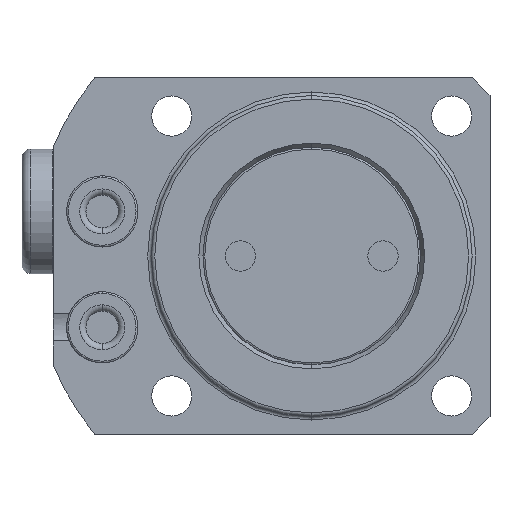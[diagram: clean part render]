
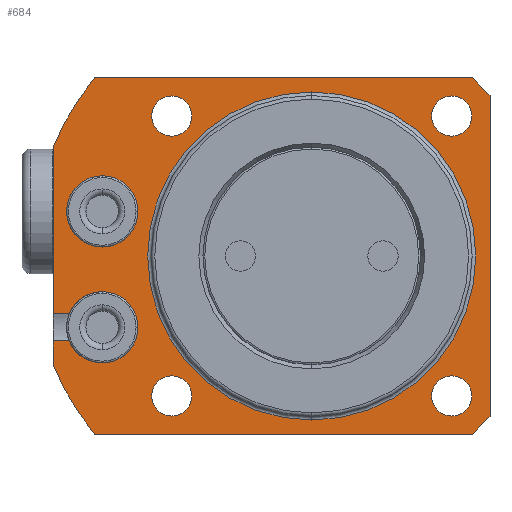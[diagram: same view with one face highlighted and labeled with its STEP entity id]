
A CAD part, front view. The second image highlights one B-rep face of the part: STEP entity #684.
In plain terms, the highlighted planar face has unit normal (0, -1, 0).
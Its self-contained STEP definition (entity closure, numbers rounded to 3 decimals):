
#330=PLANE('',#4627);
#401=FACE_BOUND('',#1279,.T.);
#402=FACE_BOUND('',#1280,.T.);
#403=FACE_BOUND('',#1281,.T.);
#404=FACE_BOUND('',#1282,.T.);
#405=FACE_BOUND('',#1283,.T.);
#406=FACE_BOUND('',#1284,.T.);
#407=FACE_BOUND('',#1285,.T.);
#684=ADVANCED_FACE('',(#401,#402,#403,#404,#405,#406,#407),#330,.T.);
#1279=EDGE_LOOP('',(#2443,#2444,#2445,#2446,#2447,#2448,#2449,#2450,#2451,
#2452,#2453,#2454,#2455,#2456));
#1280=EDGE_LOOP('',(#2457,#2458));
#1281=EDGE_LOOP('',(#2459,#2460));
#1282=EDGE_LOOP('',(#2461,#2462));
#1283=EDGE_LOOP('',(#2463,#2464));
#1284=EDGE_LOOP('',(#2465,#2466));
#1285=EDGE_LOOP('',(#2467,#2468));
#1619=LINE('',#7681,#1811);
#1620=LINE('',#7684,#1812);
#1621=LINE('',#7686,#1813);
#1622=LINE('',#7690,#1814);
#1623=LINE('',#7692,#1815);
#1624=LINE('',#7694,#1816);
#1625=LINE('',#7696,#1817);
#1626=LINE('',#7698,#1818);
#1627=LINE('',#7702,#1819);
#1811=VECTOR('',#5639,1.);
#1812=VECTOR('',#5642,1.);
#1813=VECTOR('',#5643,1.);
#1814=VECTOR('',#5646,1.);
#1815=VECTOR('',#5647,1.);
#1816=VECTOR('',#5648,1.);
#1817=VECTOR('',#5649,1.);
#1818=VECTOR('',#5650,1.);
#1819=VECTOR('',#5653,1.);
#2443=ORIENTED_EDGE('',*,*,#3743,.F.);
#2444=ORIENTED_EDGE('',*,*,#3622,.F.);
#2445=ORIENTED_EDGE('',*,*,#3744,.F.);
#2446=ORIENTED_EDGE('',*,*,#3624,.F.);
#2447=ORIENTED_EDGE('',*,*,#3745,.F.);
#2448=ORIENTED_EDGE('',*,*,#3746,.T.);
#2449=ORIENTED_EDGE('',*,*,#3747,.T.);
#2450=ORIENTED_EDGE('',*,*,#3748,.T.);
#2451=ORIENTED_EDGE('',*,*,#3749,.T.);
#2452=ORIENTED_EDGE('',*,*,#3750,.T.);
#2453=ORIENTED_EDGE('',*,*,#3751,.T.);
#2454=ORIENTED_EDGE('',*,*,#3752,.T.);
#2455=ORIENTED_EDGE('',*,*,#3753,.T.);
#2456=ORIENTED_EDGE('',*,*,#3754,.T.);
#2457=ORIENTED_EDGE('',*,*,#3755,.F.);
#2458=ORIENTED_EDGE('',*,*,#3618,.F.);
#2459=ORIENTED_EDGE('',*,*,#3646,.F.);
#2460=ORIENTED_EDGE('',*,*,#3756,.F.);
#2461=ORIENTED_EDGE('',*,*,#3654,.F.);
#2462=ORIENTED_EDGE('',*,*,#3757,.F.);
#2463=ORIENTED_EDGE('',*,*,#3662,.F.);
#2464=ORIENTED_EDGE('',*,*,#3758,.F.);
#2465=ORIENTED_EDGE('',*,*,#3670,.F.);
#2466=ORIENTED_EDGE('',*,*,#3759,.F.);
#2467=ORIENTED_EDGE('',*,*,#3760,.F.);
#2468=ORIENTED_EDGE('',*,*,#3720,.F.);
#3182=VERTEX_POINT('',#7128);
#3183=VERTEX_POINT('',#7130);
#3186=VERTEX_POINT('',#7137);
#3187=VERTEX_POINT('',#7139);
#3188=VERTEX_POINT('',#7144);
#3189=VERTEX_POINT('',#7146);
#3208=VERTEX_POINT('',#7284);
#3209=VERTEX_POINT('',#7285);
#3216=VERTEX_POINT('',#7332);
#3217=VERTEX_POINT('',#7333);
#3224=VERTEX_POINT('',#7380);
#3225=VERTEX_POINT('',#7381);
#3232=VERTEX_POINT('',#7428);
#3233=VERTEX_POINT('',#7429);
#3272=VERTEX_POINT('',#7560);
#3273=VERTEX_POINT('',#7562);
#3288=VERTEX_POINT('',#7682);
#3289=VERTEX_POINT('',#7685);
#3290=VERTEX_POINT('',#7687);
#3291=VERTEX_POINT('',#7689);
#3292=VERTEX_POINT('',#7691);
#3293=VERTEX_POINT('',#7693);
#3294=VERTEX_POINT('',#7695);
#3295=VERTEX_POINT('',#7697);
#3296=VERTEX_POINT('',#7699);
#3297=VERTEX_POINT('',#7701);
#3618=EDGE_CURVE('',#3182,#3183,#4107,.T.);
#3622=EDGE_CURVE('',#3186,#3187,#4109,.T.);
#3624=EDGE_CURVE('',#3188,#3189,#4110,.T.);
#3646=EDGE_CURVE('',#3208,#3209,#4116,.T.);
#3654=EDGE_CURVE('',#3216,#3217,#4119,.T.);
#3662=EDGE_CURVE('',#3224,#3225,#4122,.T.);
#3670=EDGE_CURVE('',#3232,#3233,#4125,.T.);
#3720=EDGE_CURVE('',#3272,#3273,#4156,.T.);
#3743=EDGE_CURVE('',#3187,#3288,#1619,.T.);
#3744=EDGE_CURVE('',#3189,#3186,#4166,.T.);
#3745=EDGE_CURVE('',#3289,#3188,#1620,.T.);
#3746=EDGE_CURVE('',#3289,#3290,#1621,.T.);
#3747=EDGE_CURVE('',#3290,#3291,#4167,.T.);
#3748=EDGE_CURVE('',#3291,#3292,#1622,.T.);
#3749=EDGE_CURVE('',#3292,#3293,#1623,.T.);
#3750=EDGE_CURVE('',#3293,#3294,#1624,.T.);
#3751=EDGE_CURVE('',#3294,#3295,#1625,.T.);
#3752=EDGE_CURVE('',#3295,#3296,#1626,.T.);
#3753=EDGE_CURVE('',#3296,#3297,#4168,.T.);
#3754=EDGE_CURVE('',#3297,#3288,#1627,.T.);
#3755=EDGE_CURVE('',#3183,#3182,#4169,.T.);
#3756=EDGE_CURVE('',#3209,#3208,#4170,.T.);
#3757=EDGE_CURVE('',#3217,#3216,#4171,.T.);
#3758=EDGE_CURVE('',#3225,#3224,#4172,.T.);
#3759=EDGE_CURVE('',#3233,#3232,#4173,.T.);
#3760=EDGE_CURVE('',#3273,#3272,#4174,.T.);
#4107=CIRCLE('',#4527,4.);
#4109=CIRCLE('',#4530,4.);
#4110=CIRCLE('',#4531,4.);
#4116=CIRCLE('',#4544,2.25);
#4119=CIRCLE('',#4549,2.25);
#4122=CIRCLE('',#4554,2.25);
#4125=CIRCLE('',#4559,2.25);
#4156=CIRCLE('',#4603,18.4);
#4166=CIRCLE('',#4618,4.);
#4167=CIRCLE('',#4619,31.5);
#4168=CIRCLE('',#4620,31.5);
#4169=CIRCLE('',#4621,4.);
#4170=CIRCLE('',#4622,2.25);
#4171=CIRCLE('',#4623,2.25);
#4172=CIRCLE('',#4624,2.25);
#4173=CIRCLE('',#4625,2.25);
#4174=CIRCLE('',#4626,18.4);
#4527=AXIS2_PLACEMENT_3D('',#7129,#5406,#5407);
#4530=AXIS2_PLACEMENT_3D('',#7138,#5414,#5415);
#4531=AXIS2_PLACEMENT_3D('',#7145,#5416,#5417);
#4544=AXIS2_PLACEMENT_3D('',#7283,#5455,#5456);
#4549=AXIS2_PLACEMENT_3D('',#7331,#5469,#5470);
#4554=AXIS2_PLACEMENT_3D('',#7379,#5483,#5484);
#4559=AXIS2_PLACEMENT_3D('',#7427,#5497,#5498);
#4603=AXIS2_PLACEMENT_3D('',#7561,#5603,#5604);
#4618=AXIS2_PLACEMENT_3D('',#7683,#5640,#5641);
#4619=AXIS2_PLACEMENT_3D('',#7688,#5644,#5645);
#4620=AXIS2_PLACEMENT_3D('',#7700,#5651,#5652);
#4621=AXIS2_PLACEMENT_3D('',#7703,#5654,#5655);
#4622=AXIS2_PLACEMENT_3D('',#7704,#5656,#5657);
#4623=AXIS2_PLACEMENT_3D('',#7705,#5658,#5659);
#4624=AXIS2_PLACEMENT_3D('',#7706,#5660,#5661);
#4625=AXIS2_PLACEMENT_3D('',#7707,#5662,#5663);
#4626=AXIS2_PLACEMENT_3D('',#7708,#5664,#5665);
#4627=AXIS2_PLACEMENT_3D('',#7709,#5666,#5667);
#5406=DIRECTION('',(0.,-1.,0.));
#5407=DIRECTION('',(0.,0.,-1.));
#5414=DIRECTION('',(0.,-1.,0.));
#5415=DIRECTION('',(0.,0.,-1.));
#5416=DIRECTION('',(0.,-1.,0.));
#5417=DIRECTION('',(0.,0.,-1.));
#5455=DIRECTION('',(0.,-1.,0.));
#5456=DIRECTION('',(0.,0.,-1.));
#5469=DIRECTION('',(0.,-1.,0.));
#5470=DIRECTION('',(0.,0.,-1.));
#5483=DIRECTION('',(0.,-1.,0.));
#5484=DIRECTION('',(0.,0.,-1.));
#5497=DIRECTION('',(0.,-1.,0.));
#5498=DIRECTION('',(0.,0.,-1.));
#5603=DIRECTION('',(0.,-1.,0.));
#5604=DIRECTION('',(0.,0.,-1.));
#5639=DIRECTION('',(-1.,0.,0.));
#5640=DIRECTION('',(0.,-1.,0.));
#5641=DIRECTION('',(0.,0.,-1.));
#5642=DIRECTION('',(1.,0.,0.));
#5643=DIRECTION('',(0.,0.,-1.));
#5644=DIRECTION('',(0.,-1.,0.));
#5645=DIRECTION('',(0.,0.,-1.));
#5646=DIRECTION('',(1.,0.,0.));
#5647=DIRECTION('',(0.707,0.,0.707));
#5648=DIRECTION('',(0.,0.,1.));
#5649=DIRECTION('',(-0.707,0.,0.707));
#5650=DIRECTION('',(-1.,0.,0.));
#5651=DIRECTION('',(0.,-1.,0.));
#5652=DIRECTION('',(0.,0.,-1.));
#5653=DIRECTION('',(0.,0.,-1.));
#5654=DIRECTION('',(0.,-1.,0.));
#5655=DIRECTION('',(0.,0.,-1.));
#5656=DIRECTION('',(0.,-1.,0.));
#5657=DIRECTION('',(0.,0.,-1.));
#5658=DIRECTION('',(0.,-1.,0.));
#5659=DIRECTION('',(0.,0.,-1.));
#5660=DIRECTION('',(0.,-1.,0.));
#5661=DIRECTION('',(0.,0.,-1.));
#5662=DIRECTION('',(0.,-1.,0.));
#5663=DIRECTION('',(0.,0.,-1.));
#5664=DIRECTION('',(0.,-1.,0.));
#5665=DIRECTION('',(0.,0.,-1.));
#5666=DIRECTION('',(0.,-1.,0.));
#5667=DIRECTION('',(0.,0.,1.));
#7128=CARTESIAN_POINT('',(-23.5,27.628,9.));
#7129=CARTESIAN_POINT('',(-23.5,27.628,5.));
#7130=CARTESIAN_POINT('',(-23.5,27.628,1.));
#7137=CARTESIAN_POINT('',(-23.5,27.628,-4.));
#7138=CARTESIAN_POINT('',(-23.5,27.628,-8.));
#7139=CARTESIAN_POINT('',(-27.2,27.628,-6.48));
#7144=CARTESIAN_POINT('',(-27.2,27.628,-9.52));
#7145=CARTESIAN_POINT('',(-23.5,27.628,-8.));
#7146=CARTESIAN_POINT('',(-23.5,27.628,-12.));
#7283=CARTESIAN_POINT('',(-15.7,27.628,-15.7));
#7284=CARTESIAN_POINT('',(-15.7,27.628,-13.45));
#7285=CARTESIAN_POINT('',(-15.7,27.628,-17.95));
#7331=CARTESIAN_POINT('',(-15.7,27.628,15.7));
#7332=CARTESIAN_POINT('',(-15.7,27.628,17.95));
#7333=CARTESIAN_POINT('',(-15.7,27.628,13.45));
#7379=CARTESIAN_POINT('',(15.7,27.628,15.7));
#7380=CARTESIAN_POINT('',(15.7,27.628,17.95));
#7381=CARTESIAN_POINT('',(15.7,27.628,13.45));
#7427=CARTESIAN_POINT('',(15.7,27.628,-15.7));
#7428=CARTESIAN_POINT('',(15.7,27.628,-13.45));
#7429=CARTESIAN_POINT('',(15.7,27.628,-17.95));
#7560=CARTESIAN_POINT('',(0.,27.628,18.4));
#7561=CARTESIAN_POINT('',(0.,27.628,0.));
#7562=CARTESIAN_POINT('',(0.,27.628,-18.4));
#7681=CARTESIAN_POINT('',(-24.,27.628,-6.48));
#7682=CARTESIAN_POINT('',(-29.,27.628,-6.48));
#7683=CARTESIAN_POINT('',(-23.5,27.628,-8.));
#7684=CARTESIAN_POINT('',(-24.,27.628,-9.52));
#7685=CARTESIAN_POINT('',(-29.,27.628,-9.52));
#7686=CARTESIAN_POINT('',(-29.,27.628,0.));
#7687=CARTESIAN_POINT('',(-29.,27.628,-12.298));
#7688=CARTESIAN_POINT('',(0.,27.628,0.));
#7689=CARTESIAN_POINT('',(-24.336,27.628,-20.));
#7690=CARTESIAN_POINT('',(31.5,27.628,-20.));
#7691=CARTESIAN_POINT('',(18.,27.628,-20.));
#7692=CARTESIAN_POINT('',(34.75,27.628,-3.25));
#7693=CARTESIAN_POINT('',(20.,27.628,-18.));
#7694=CARTESIAN_POINT('',(20.,27.628,0.));
#7695=CARTESIAN_POINT('',(20.,27.628,18.));
#7696=CARTESIAN_POINT('',(34.75,27.628,3.25));
#7697=CARTESIAN_POINT('',(18.,27.628,20.));
#7698=CARTESIAN_POINT('',(31.5,27.628,20.));
#7699=CARTESIAN_POINT('',(-24.336,27.628,20.));
#7700=CARTESIAN_POINT('',(0.,27.628,0.));
#7701=CARTESIAN_POINT('',(-29.,27.628,12.298));
#7702=CARTESIAN_POINT('',(-29.,27.628,0.));
#7703=CARTESIAN_POINT('',(-23.5,27.628,5.));
#7704=CARTESIAN_POINT('',(-15.7,27.628,-15.7));
#7705=CARTESIAN_POINT('',(-15.7,27.628,15.7));
#7706=CARTESIAN_POINT('',(15.7,27.628,15.7));
#7707=CARTESIAN_POINT('',(15.7,27.628,-15.7));
#7708=CARTESIAN_POINT('',(0.,27.628,0.));
#7709=CARTESIAN_POINT('',(31.5,27.628,0.));
